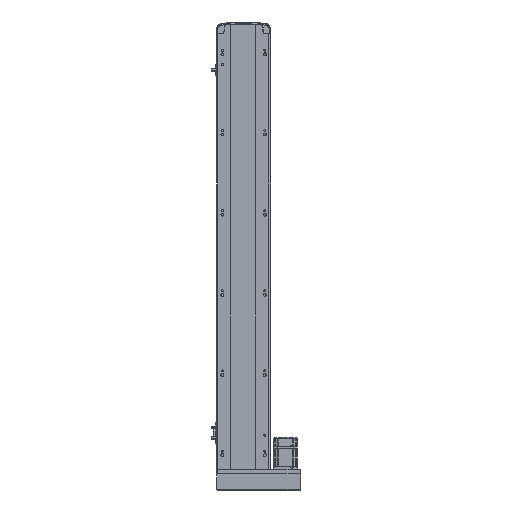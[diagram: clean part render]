
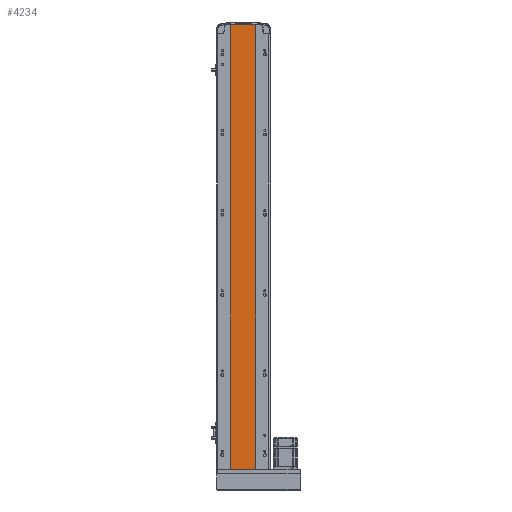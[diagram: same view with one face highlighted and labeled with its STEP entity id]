
A CAD part, front view. The second image highlights one B-rep face of the part: STEP entity #4234.
In plain terms, the highlighted planar face has unit normal (0, -1, 0).
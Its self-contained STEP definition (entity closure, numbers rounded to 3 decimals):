
#1085 = CARTESIAN_POINT ( 'NONE',  ( -32., 1., 0. ) ) ;
#1719 = EDGE_LOOP ( 'NONE', ( #50421, #37041, #53247, #52972 ) ) ;
#2029 = VECTOR ( 'NONE', #13941, 1000. ) ;
#4234 = ADVANCED_FACE ( 'NONE', ( #48957 ), #27230, .F. ) ;
#6789 = VERTEX_POINT ( 'NONE', #18975 ) ;
#7338 = VECTOR ( 'NONE', #20203, 1000. ) ;
#7561 = LINE ( 'NONE', #49375, #2029 ) ;
#9072 = DIRECTION ( 'NONE',  ( -1., 0., 0. ) ) ;
#9279 = CARTESIAN_POINT ( 'NONE',  ( -32., 1., 1109. ) ) ;
#9676 = DIRECTION ( 'NONE',  ( 0., 1., 0. ) ) ;
#13293 = LINE ( 'NONE', #55112, #47564 ) ;
#13825 = VERTEX_POINT ( 'NONE', #29145 ) ;
#13941 = DIRECTION ( 'NONE',  ( 0., 0., -1. ) ) ;
#16852 = VECTOR ( 'NONE', #52957, 1000. ) ;
#18975 = CARTESIAN_POINT ( 'NONE',  ( 30., 1., 0. ) ) ;
#19656 = LINE ( 'NONE', #29971, #16852 ) ;
#20203 = DIRECTION ( 'NONE',  ( 1., 0., 0. ) ) ;
#23144 = DIRECTION ( 'NONE',  ( 0., 0., -1. ) ) ;
#25413 = VERTEX_POINT ( 'NONE', #47937 ) ;
#27230 = PLANE ( 'NONE',  #36178 ) ;
#29145 = CARTESIAN_POINT ( 'NONE',  ( -32., 1., 1109. ) ) ;
#29971 = CARTESIAN_POINT ( 'NONE',  ( -32., 1., 0. ) ) ;
#34638 = LINE ( 'NONE', #56084, #7338 ) ;
#36178 = AXIS2_PLACEMENT_3D ( 'NONE', #9279, #9676, #9072 ) ;
#37041 = ORIENTED_EDGE ( 'NONE', *, *, #52832, .F. ) ;
#39355 = EDGE_CURVE ( 'NONE', #56044, #6789, #19656, .T. ) ;
#43105 = EDGE_CURVE ( 'NONE', #13825, #56044, #7561, .T. ) ;
#45626 = EDGE_CURVE ( 'NONE', #13825, #25413, #34638, .T. ) ;
#47564 = VECTOR ( 'NONE', #23144, 1000. ) ;
#47937 = CARTESIAN_POINT ( 'NONE',  ( 30., 1., 1109. ) ) ;
#48957 = FACE_OUTER_BOUND ( 'NONE', #1719, .T. ) ;
#49375 = CARTESIAN_POINT ( 'NONE',  ( -32., 1., 1109. ) ) ;
#50421 = ORIENTED_EDGE ( 'NONE', *, *, #39355, .T. ) ;
#52832 = EDGE_CURVE ( 'NONE', #25413, #6789, #13293, .T. ) ;
#52957 = DIRECTION ( 'NONE',  ( 1., 0., 0. ) ) ;
#52972 = ORIENTED_EDGE ( 'NONE', *, *, #43105, .T. ) ;
#53247 = ORIENTED_EDGE ( 'NONE', *, *, #45626, .F. ) ;
#55112 = CARTESIAN_POINT ( 'NONE',  ( 30., 1., 1109. ) ) ;
#56044 = VERTEX_POINT ( 'NONE', #1085 ) ;
#56084 = CARTESIAN_POINT ( 'NONE',  ( -32., 1., 1109. ) ) ;
